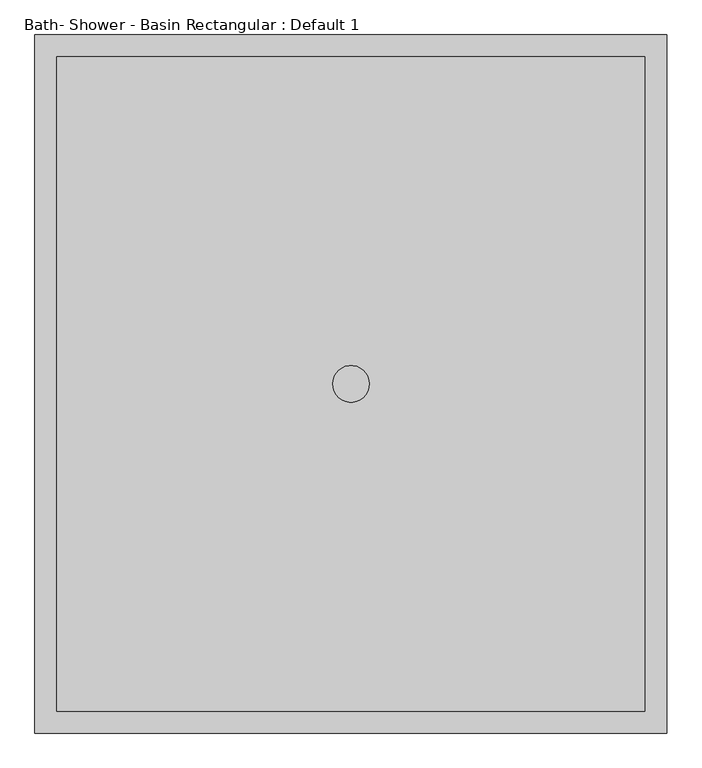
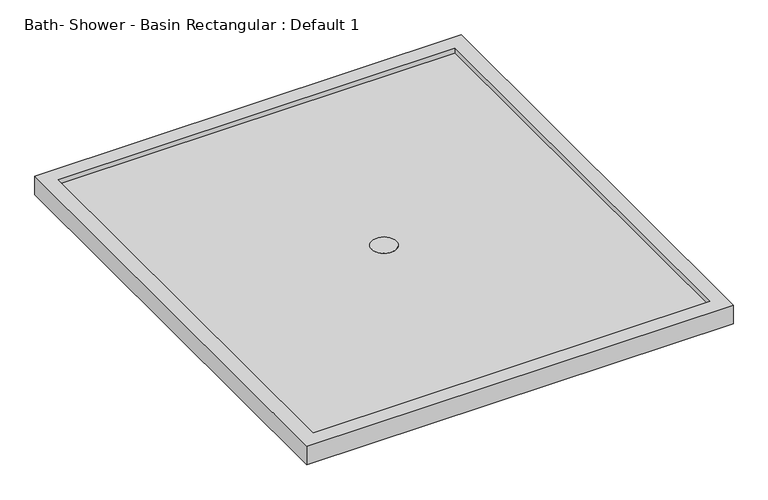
"""IFC4 building model written with IfcOpenShell, lengths in millimetres: flow terminal geometry, Bath- Shower - Basin Rectangular : Default 1."""

from ifc_helpers import new_model, si_unit, point, frame_2d, origin, origin_with_axes, place, context, project, spatial, circle_curve, trimmed, segment, composite_curve, outline, extrude, faceted_brep, source, transform, mapped, element, save


def bath_shower_basin_rectangular_default_1_b7830e28(model_context):
    return source(origin(), model_context, "Body", "SolidModel", [
        extrude(outline(composite_curve([segment(trimmed(circle_curve(frame_2d((0.1, 0.15)), 31.75), [point((-31.65, 0.15))], [point((31.85, 0.15))], False, "CARTESIAN"), True, "CONTINUOUS"), segment(trimmed(circle_curve(frame_2d((0.1, 0.15)), 31.75), [point((31.85, 0.15))], [point((-31.65, 0.15))], False, "CARTESIAN"), True, "CONTINUOUS")], self_intersect=False)), origin_with_axes(), (0.0, 0.0, 1.0), 38.1),
        faceted_brep([(546.1, 603.25, 50.8), (-546.1, 603.25, 50.8), (-546.1, -603.25, 50.8), (546.1, -603.25, 50.8), (-508.0, 565.15, 50.8), (508.0, 565.15, 50.8), (508.0, -565.15, 50.8), (-508.0, -565.15, 50.8), (546.1, 603.25, 0.0), (546.1, -603.25, 0.0), (-546.1, -603.25, 0.0), (-546.1, 603.25, 0.0), (508.0, 565.15, 38.1), (-508.0, 565.15, 38.1), (-508.0, -565.15, 38.1), (508.0, -565.15, 38.1)], [[[0, 1, 2, 3], [4, 5, 6, 7]], [[8, 9, 10, 11]], [[1, 0, 8, 11]], [[2, 1, 11, 10]], [[3, 2, 10, 9]], [[0, 3, 9, 8]], [[12, 13, 14, 15]], [[13, 12, 5, 4]], [[14, 13, 4, 7]], [[15, 14, 7, 6]], [[12, 15, 6, 5]]]),
    ])


if __name__ == "__main__":
    model = new_model("IFC4")
    model_context = context("Model", 3, world=origin())
    ifc_project = project(units=[si_unit("LENGTHUNIT", "METRE", prefix="MILLI")], contexts=[model_context])
    site = spatial("IfcSite", under=ifc_project)
    building = spatial("IfcBuilding", under=site)
    placement = place(None, origin())
    bath_shower_basin_rectangular_default_1_shape = bath_shower_basin_rectangular_default_1_b7830e28(model_context)
    element("IfcFlowTerminal", 1, ObjectType="Bath- Shower - Basin Rectangular : Default 1", at=placement, inside=building, context=model_context, shape_type="MappedRepresentation", body=[
        mapped(bath_shower_basin_rectangular_default_1_shape, transform((0.0, 0.0, 0.0), x_axis=(1.0, 0.0, 0.0), y_axis=(0.0, 1.0, 0.0), z_axis=(0.0, 0.0, 1.0))),
    ])
    save(model, "model.ifc")
